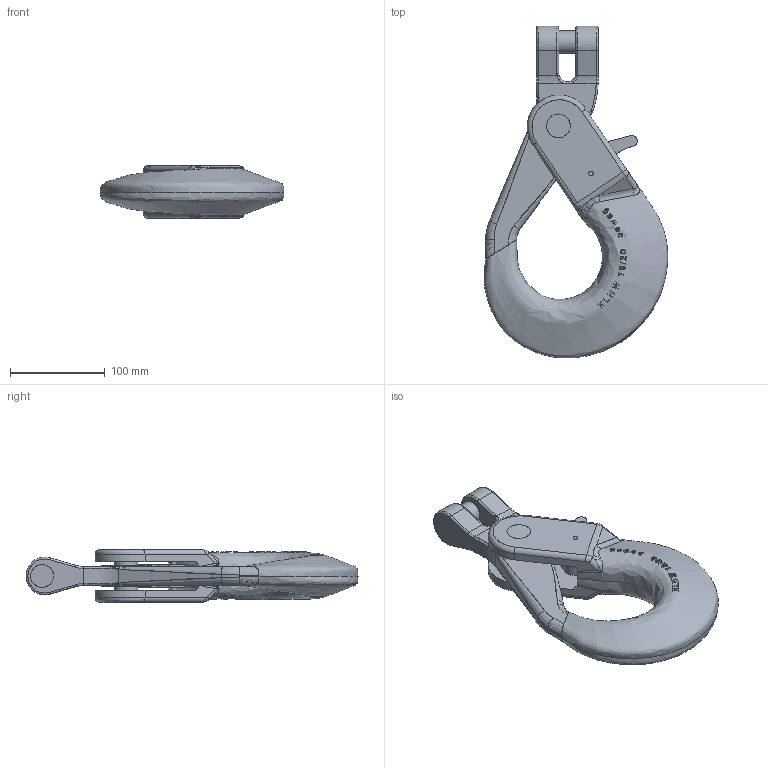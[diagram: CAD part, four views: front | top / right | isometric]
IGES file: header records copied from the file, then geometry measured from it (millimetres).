
Global section: file name: C:\Dokumente und Einstellungen\kse\Desktop\UG_Plots\KLHW 19_20 Kundenmodell zusammenbau.igs; native system: NX V7.5; preprocessor: SIEMENS PLM Software NX 7.5; date: 20111223.143324; units: millimetre
Bounding box: 193.8 x 350.77 x 56 mm (x, y, z)
Surface area: 169599.7 mm2 (no closed solid volume)
Topology: 0 solids, 0 shells, 328 faces, 2278 edges, 2270 vertices
Faces by surface type: bspline 314, offset 14
